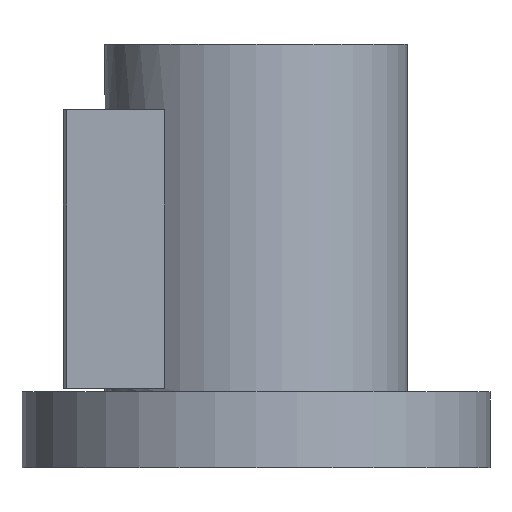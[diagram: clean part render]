
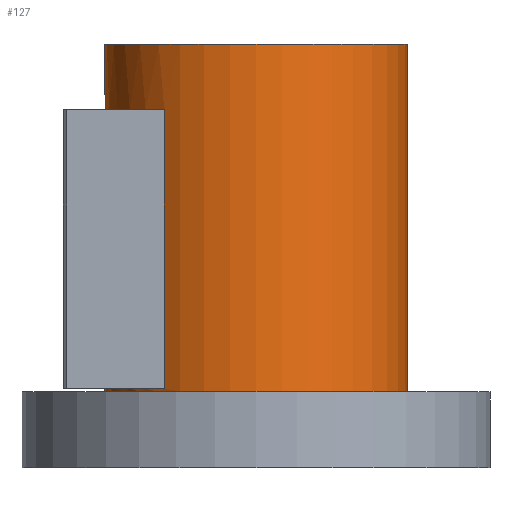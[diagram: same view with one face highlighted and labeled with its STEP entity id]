
A CAD part, front view. The second image highlights one B-rep face of the part: STEP entity #127.
In plain terms, the highlighted cylindrical face has radius 44 mm (diameter 88 mm), a full revolution.
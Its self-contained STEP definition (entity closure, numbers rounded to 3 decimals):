
#127=ADVANCED_FACE('',(#200,#201,#202),#155,.T.);
#155=CYLINDRICAL_SURFACE('',#508,44.);
#168=LINE('',#698,#184);
#169=LINE('',#702,#185);
#184=VECTOR('',#568,1.);
#185=VECTOR('',#571,1.);
#200=FACE_BOUND('',#245,.T.);
#201=FACE_BOUND('',#246,.T.);
#202=FACE_BOUND('',#247,.T.);
#245=EDGE_LOOP('',(#305));
#246=EDGE_LOOP('',(#306));
#247=EDGE_LOOP('',(#307,#308,#309,#310));
#305=ORIENTED_EDGE('',*,*,#431,.F.);
#306=ORIENTED_EDGE('',*,*,#432,.T.);
#307=ORIENTED_EDGE('',*,*,#433,.F.);
#308=ORIENTED_EDGE('',*,*,#434,.F.);
#309=ORIENTED_EDGE('',*,*,#435,.T.);
#310=ORIENTED_EDGE('',*,*,#436,.F.);
#393=VERTEX_POINT('',#692);
#394=VERTEX_POINT('',#694);
#395=VERTEX_POINT('',#696);
#396=VERTEX_POINT('',#697);
#397=VERTEX_POINT('',#699);
#398=VERTEX_POINT('',#701);
#431=EDGE_CURVE('',#393,#393,#475,.T.);
#432=EDGE_CURVE('',#394,#394,#476,.T.);
#433=EDGE_CURVE('',#395,#396,#477,.T.);
#434=EDGE_CURVE('',#397,#395,#168,.T.);
#435=EDGE_CURVE('',#397,#398,#478,.T.);
#436=EDGE_CURVE('',#396,#398,#169,.T.);
#475=CIRCLE('',#504,44.);
#476=CIRCLE('',#505,44.);
#477=CIRCLE('',#506,44.);
#478=CIRCLE('',#507,44.);
#504=AXIS2_PLACEMENT_3D('',#691,#562,#563);
#505=AXIS2_PLACEMENT_3D('',#693,#564,#565);
#506=AXIS2_PLACEMENT_3D('',#695,#566,#567);
#507=AXIS2_PLACEMENT_3D('',#700,#569,#570);
#508=AXIS2_PLACEMENT_3D('',#703,#572,#573);
#562=DIRECTION('',(0.,0.,1.));
#563=DIRECTION('',(1.,0.,0.));
#564=DIRECTION('',(0.,0.,1.));
#565=DIRECTION('',(1.,0.,0.));
#566=DIRECTION('',(0.,0.,-1.));
#567=DIRECTION('',(-1.,0.,0.));
#568=DIRECTION('',(0.,0.,1.));
#569=DIRECTION('',(0.,0.,-1.));
#570=DIRECTION('',(-1.,0.,0.));
#571=DIRECTION('',(0.,0.,-1.));
#572=DIRECTION('',(0.,0.,-1.));
#573=DIRECTION('',(-1.,0.,0.));
#691=CARTESIAN_POINT('',(0.,0.,123.));
#692=CARTESIAN_POINT('',(44.,0.,123.));
#693=CARTESIAN_POINT('',(0.,0.,22.));
#694=CARTESIAN_POINT('',(44.,0.,22.));
#695=CARTESIAN_POINT('',(0.,0.,104.));
#696=CARTESIAN_POINT('',(-26.665,-35.,104.));
#697=CARTESIAN_POINT('',(-26.665,35.,104.));
#698=CARTESIAN_POINT('',(-26.665,-35.,123.));
#699=CARTESIAN_POINT('',(-26.665,-35.,23.));
#700=CARTESIAN_POINT('',(0.,0.,23.));
#701=CARTESIAN_POINT('',(-26.665,35.,23.));
#702=CARTESIAN_POINT('',(-26.665,35.,123.));
#703=CARTESIAN_POINT('',(0.,0.,123.));
